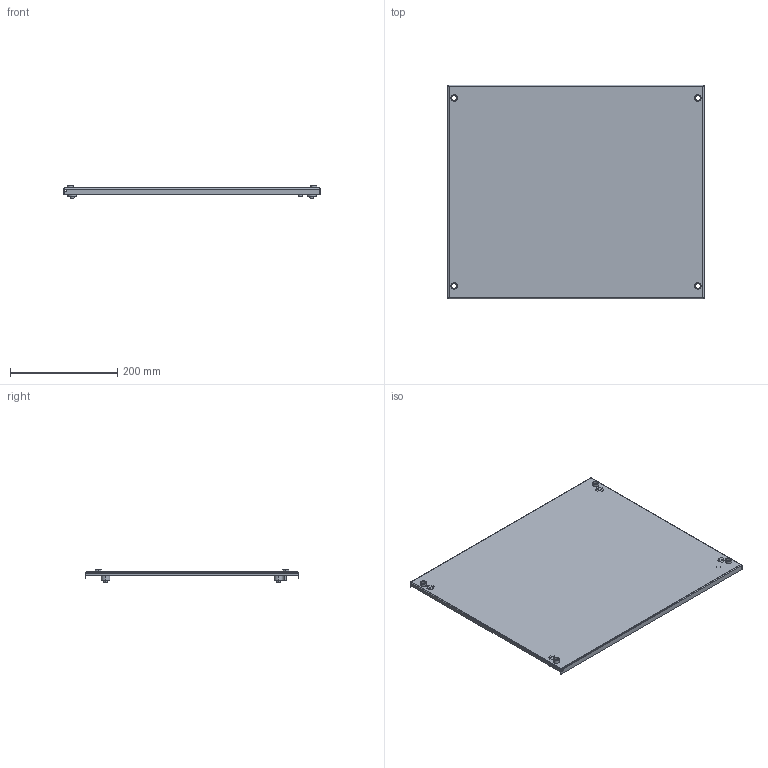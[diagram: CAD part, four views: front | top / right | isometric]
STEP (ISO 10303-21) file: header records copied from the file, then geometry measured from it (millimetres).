
FILE_DESCRIPTION (( 'STEP AP203' ), '1' );
FILE_NAME ('EUPM060040.STEP', '2015-04-22T12:33:34', ( 'Admin' ), ( '' ), 'SwSTEP 2.0', 'SolidWorks 2014', '' );
FILE_SCHEMA (( 'CONFIG_CONTROL_DESIGN' ));
Length unit declared in the file: millimetre
Products named in the file (1): EUPM060040
Bounding box: 477 x 398 x 25.14 mm (x, y, z)
Volume: 313581.9 mm3; surface area: 417646.9 mm2
Topology: 1 solids, 1 shells, 182 faces, 424 edges, 268 vertices
Faces by surface type: cylinder 92, plane 68, cone 10, torus 8, bspline 4
Entity records: 5394 total; most frequent: CARTESIAN_POINT 1026, DIRECTION 961, ORIENTED_EDGE 840, EDGE_CURVE 420, AXIS2_PLACEMENT_3D 375, VERTEX_POINT 268, EDGE_LOOP 222, LINE 211
